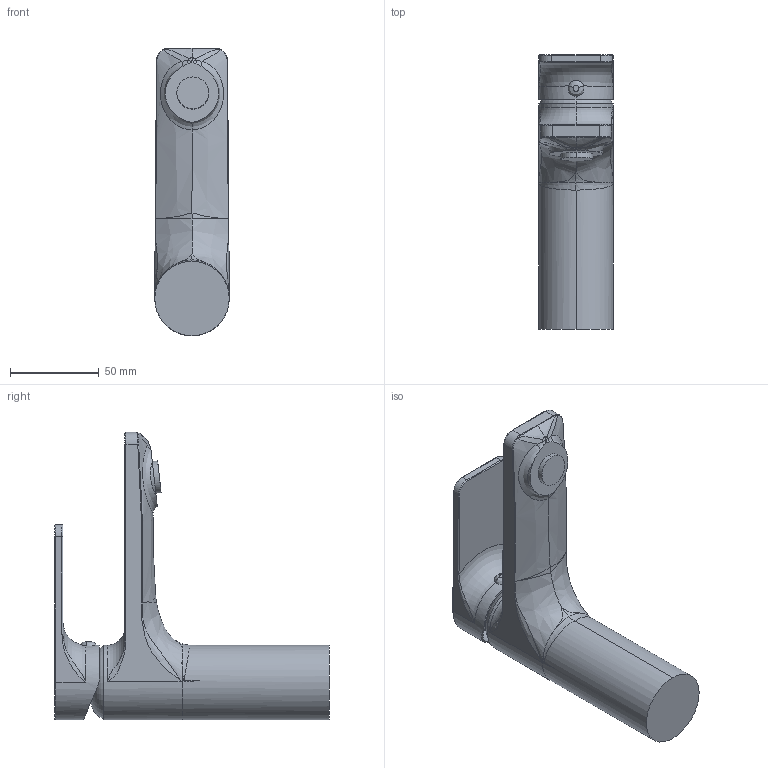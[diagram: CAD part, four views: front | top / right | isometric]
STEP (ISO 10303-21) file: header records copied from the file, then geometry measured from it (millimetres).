
FILE_DESCRIPTION (( 'STEP AP203' ), '1' );
FILE_NAME ('fy1500.STEP', '2018-05-31T13:21:31', ( '' ), ( '' ), 'SwSTEP 2.0', 'SolidWorks 2016', '' );
FILE_SCHEMA (( 'CONFIG_CONTROL_DESIGN' ));
Length unit declared in the file: millimetre
Products named in the file (1): fy1500
Bounding box: 42 x 154.5 x 162.03 mm (x, y, z)
Volume: 272229.9 mm3; surface area: 58479.5 mm2
Topology: 4 solids, 6 shells, 138 faces, 334 edges, 207 vertices
Faces by surface type: bspline 61, cylinder 35, plane 27, torus 15
Entity records: 19204 total; most frequent: CARTESIAN_POINT 16454, ORIENTED_EDGE 664, DIRECTION 395, EDGE_CURVE 332, VERTEX_POINT 207, B_SPLINE_CURVE_WITH_KNOTS 174, AXIS2_PLACEMENT_3D 169, EDGE_LOOP 139
